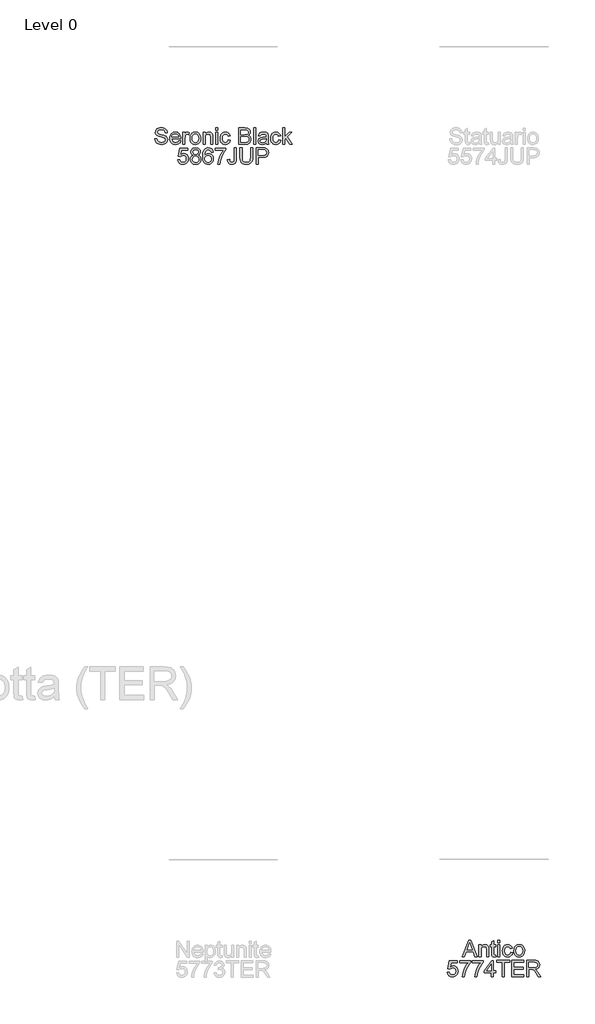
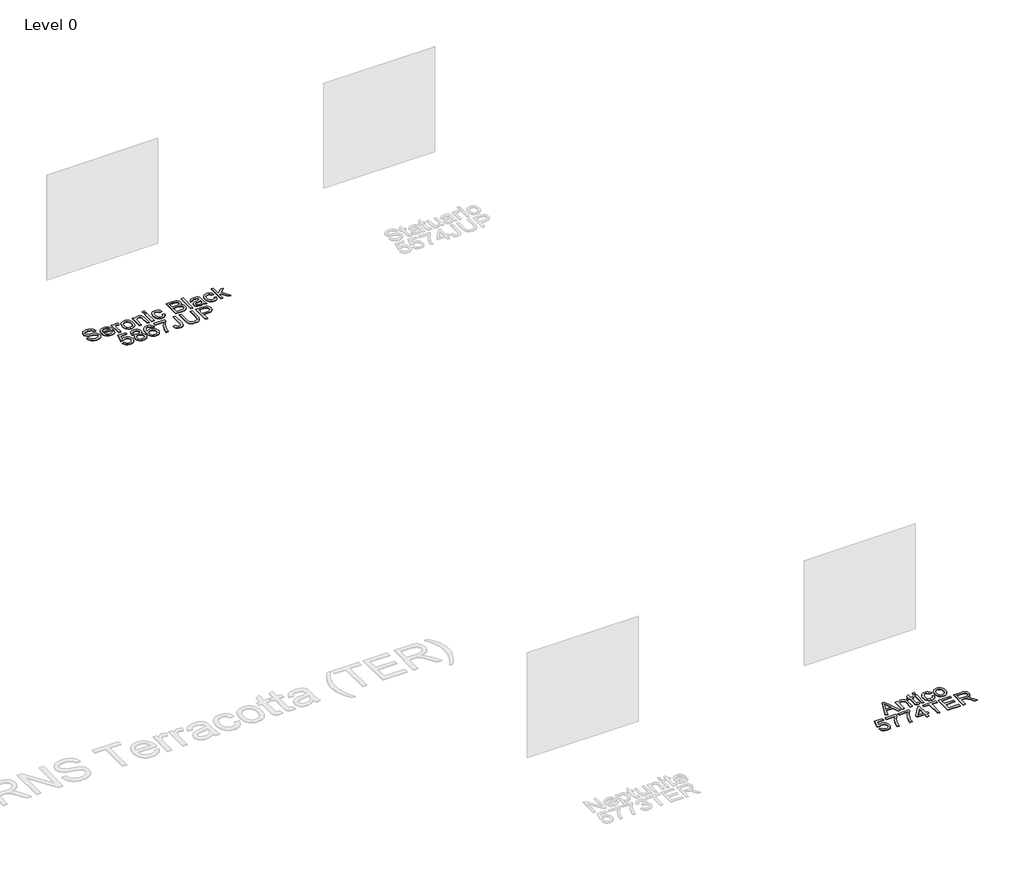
# One storey, part 25 of 29: 2 proxies.
"""IFC4 building model written with IfcOpenShell, lengths in millimetres."""

from ifc_helpers import new_model, si_unit, origin, origin_with_axes, place, context, project, spatial, polyline, outline, extrude, element, save

model = new_model("IFC4")

# Units and contexts
model_context = context("Model", 3, world=origin())
ifc_project = project(units=[si_unit("LENGTHUNIT", "METRE", prefix="MILLI")], contexts=[model_context])

# Site, building, storey
site = spatial("IfcSite", under=ifc_project)
building = spatial("IfcBuilding", under=site)
storey = spatial("IfcBuildingStorey", under=building, Name="Level 0", Elevation=0.0)

# Proxies
placement = place(None, origin())
element("IfcBuildingElementProxy", 1, Name="300mm Arial", ObjectType="300mm Arial", at=placement, inside=storey, context=model_context, shape_type="SweptSolid", body=[
    extrude(outline(polyline([(27287.3595474, -6898.2649241), (27325.0306637, -6898.2649241), (27329.3532772, -6919.1698185), (27337.1707696, -6935.9728286), (27349.3660577, -6949.308551), (27366.8220584, -6959.8115819), (27388.1592141, -6966.6265959), (27411.9979674, -6968.8982672), (27432.9856352, -6967.1784189), (27451.3613409, -6962.0188739), (27466.2513646, -6953.8518936), (27476.7819868, -6943.1097394), (27483.0451777, -6930.7764955), (27485.132908, -6917.8362463), (27483.5694096, -6905.2270909), (27478.8789141, -6894.3285868), (27469.3507705, -6885.0303694), (27453.2743273, -6877.222074), (27398.4231218, -6862.837888), (27362.4166715, -6853.3189414), (27339.3780616, -6844.2598472), (27320.6252769, -6831.5863125), (27307.3355398, -6816.2272392), (27299.4168798, -6798.5137211), (27296.7773265, -6778.7768521), (27300.0422792, -6756.7131294), (27309.8371373, -6736.1393289), (27325.9043835, -6718.7017223), (27347.9865002, -6706.0465817), (27374.492398, -6698.3486509), (27403.8309871, -6695.782674), (27435.6159915, -6698.4682126), (27463.4278703, -6706.5248283), (27486.2733422, -6719.7869742), (27503.1591258, -6738.0891034), (27513.8460978, -6760.2907818), (27518.0951348, -6785.2515752), (27480.4240185, -6785.2515752), (27473.507837, -6762.7739853), (27459.0868628, -6746.5503893), (27436.5540906, -6736.7279401), (27405.3025151, -6733.4537903), (27373.3151756, -6736.6911519), (27351.3710146, -6746.4032365), (27338.6790858, -6760.695452), (27334.4484428, -6777.6732061), (27337.4466811, -6792.1493626), (27346.4413959, -6803.7928278), (27367.7049752, -6814.2038882), (27407.9512655, -6824.8356779), (27449.4851427, -6834.9340387), (27474.611483, -6843.7448125), (27496.0865945, -6857.4116286), (27511.0685887, -6874.2790181), (27519.8701654, -6894.1630399), (27522.8040244, -6916.8797531), (27519.428707, -6940.102304), (27509.3027551, -6961.9452975), (27492.8400358, -6980.7440675), (27470.4544164, -6994.8339479), (27443.5346514, -7003.6355246), (27413.4694954, -7006.5693835), (27376.5617342, -7003.4055984), (27346.1838785, -6993.9142429), (27321.9864402, -6978.0585289), (27303.6199316, -6955.8016682), (27291.8293137, -6928.6887651), (27287.3595474, -6898.2649241)])), origin_with_axes(), (0.0, 0.0, 1.0), 10.0),
    extrude(outline(polyline([(27729.5537056, -6935.9360404), (27766.489058, -6940.64493), (27753.1809268, -6968.4752029), (27731.9449386, -6989.2789297), (27703.25934, -7002.2467701), (27667.6023777, -7006.5693835), (27644.2280754, -7004.7046817), (27623.4013559, -6999.1105761), (27605.1222193, -6989.7870668), (27589.3906655, -6976.7341537), (27576.7401234, -6960.3151204), (27567.7040219, -6940.8932503), (27562.282361, -6918.4685435), (27560.4751407, -6893.0409998), (27562.3007551, -6866.7512327), (27567.7775983, -6843.5792656), (27576.9056703, -6823.5250983), (27589.6849711, -6806.5887309), (27605.3751382, -6793.133447), (27623.235809, -6783.5225298), (27643.2669837, -6777.7559796), (27665.4686621, -6775.8337961), (27686.9552699, -6777.751381), (27706.386337, -6783.5041357), (27723.7618635, -6793.0920602), (27739.0818493, -6806.5151545), (27751.5875379, -6823.4147337), (27760.5201726, -6843.4321128), (27765.8797534, -6866.5672917), (27767.6662803, -6892.8202706), (27767.4455511, -6902.9738137), (27598.146257, -6902.9738137), (27604.6669653, -6931.1719686), (27619.8145065, -6951.902119), (27641.675894, -6964.6492302), (27668.3381416, -6968.8982672), (27688.3877104, -6966.9300985), (27705.273494, -6961.0255925), (27718.9954924, -6950.8168672), (27729.5537056, -6935.9360404)]), holes=[polyline([(27598.146257, -6865.3026974), (27729.995164, -6865.3026974), (27724.8999984, -6845.4002814), (27714.9120022, -6831.1632482), (27692.9494471, -6817.9194964), (27665.3215093, -6813.5049125), (27639.9284546, -6817.0273826), (27618.9315897, -6827.5947929), (27604.3358715, -6844.0667092), (27598.146257, -6865.3026974)])]), origin_with_axes(), (0.0, 0.0, 1.0), 10.0),
    extrude(outline(polyline([(27805.3373966, -7001.860494), (27805.3373966, -6780.5426857), (27838.2996234, -6780.5426857), (27838.2996234, -6813.2841833), (27850.4765175, -6794.3014723), (27861.6969183, -6783.1178596), (27872.9541074, -6777.654812), (27885.241366, -6775.8337961), (27904.0033478, -6778.7400639), (27923.0596351, -6787.4588672), (27910.4780709, -6821.2304343), (27897.234319, -6815.4362929), (27883.9905672, -6813.5049125), (27872.7425752, -6815.3627165), (27862.6901997, -6820.9361288), (27854.5692047, -6829.8020848), (27849.1153541, -6841.5375205), (27844.5352232, -6862.5803706), (27843.008513, -6885.5362071), (27843.008513, -7001.860494), (27805.3373966, -7001.860494)])), origin_with_axes(), (0.0, 0.0, 1.0), 10.0),
    extrude(outline(polyline([(27937.1863037, -6891.2015898), (27939.2234503, -6862.5389839), (27945.3348899, -6837.8403064), (27955.5206227, -6817.1055575), (27969.7806485, -6800.334737), (27984.1372434, -6789.6155754), (27999.9837603, -6781.9590314), (28017.3201993, -6777.3651049), (28036.1465604, -6775.8337961), (28056.9295939, -6777.698498), (28075.7214661, -6783.2926036), (28092.5221769, -6792.6161129), (28107.3317265, -6805.669026), (28119.4189493, -6822.0098843), (28128.0526799, -6841.1972296), (28133.2329182, -6863.2310619), (28134.9596643, -6888.1113811), (28131.9062438, -6926.1687735), (28122.7459821, -6955.1394806), (28107.7455937, -6976.8353213), (28087.1717932, -6993.0681143), (28062.7352316, -7003.1940662), (28036.1465604, -7006.5693835), (28015.0600243, -7004.7115794), (27996.0934082, -6999.1381672), (27979.2467121, -6989.8491468), (27964.519936, -6976.8445183), (27952.5614719, -6960.3450108), (27944.0197118, -6940.5713536), (27938.8946557, -6917.5235466), (27937.1863037, -6891.2015898)]), holes=[polyline([(27974.85742, -6891.1280134), (27979.2168217, -6925.2214773), (27992.2950266, -6949.5108861), (28011.9767133, -6964.0514219), (28036.1465604, -6968.8982672), (28060.2060429, -6964.0238308), (28079.8509414, -6949.4005215), (28092.9291464, -6924.789216), (28097.288548, -6889.950791), (28092.9015552, -6856.8506085), (28079.7405768, -6832.8922936), (28060.0680872, -6818.3517577), (28036.1465604, -6813.5049125), (28011.9767133, -6818.3333636), (27992.2950266, -6832.8187172), (27979.2168217, -6857.0529436), (27974.85742, -6891.1280134)])]), origin_with_axes(), (0.0, 0.0, 1.0), 10.0),
    extrude(outline(polyline([(28177.3396702, -7001.860494), (28177.3396702, -6780.5426857), (28215.0107865, -6780.5426857), (28215.0107865, -6811.4447733), (28228.0981885, -6795.8649708), (28243.8159467, -6784.7365404), (28262.1640612, -6778.0594822), (28283.142532, -6775.8337961), (28301.7113757, -6777.6272209), (28318.7167209, -6783.0074951), (28332.8985718, -6791.303234), (28342.9969326, -6801.8430532), (28354.2909098, -6829.5445674), (28356.2774726, -6865.964885), (28356.2774726, -7001.860494), (28318.6063563, -7001.860494), (28318.6063563, -6871.0416565), (28314.2653488, -6837.7115477), (28308.2596752, -6827.7879309), (28298.9246696, -6820.0900002), (28286.9593077, -6815.1511844), (28273.0625653, -6813.5049125), (28250.9988427, -6817.2021265), (28232.1908757, -6828.2937687), (28224.6745866, -6837.3482643), (28219.3058088, -6849.7228949), (28215.0107865, -6884.4325611), (28215.0107865, -7001.860494), (28177.3396702, -7001.860494)])), origin_with_axes(), (0.0, 0.0, 1.0), 10.0),
    extrude(outline(polyline([(28408.0752575, -6738.1626798), (28408.0752575, -6700.4915635), (28445.7463739, -6700.4915635), (28445.7463739, -6738.1626798), (28408.0752575, -6738.1626798)])), origin_with_axes(), (0.0, 0.0, 1.0), 10.0),
    extrude(outline(polyline([(28408.0752575, -7001.860494), (28408.0752575, -6780.5426857), (28445.7463739, -6780.5426857), (28445.7463739, -7001.860494), (28408.0752575, -7001.860494)])), origin_with_axes(), (0.0, 0.0, 1.0), 10.0),
    extrude(outline(polyline([(28643.5197345, -6921.8093718), (28681.1908508, -6926.5182614), (28670.6878198, -6960.0231141), (28650.9509508, -6985.3425924), (28623.8380477, -7001.2626857), (28591.2069147, -7006.5693835), (28570.0789919, -7004.7184772), (28551.1353684, -6999.1657584), (28534.3760443, -6989.9112269), (28519.8010195, -6976.9548829), (28508.0035037, -6960.5404481), (28499.5767068, -6940.9116444), (28494.5206286, -6918.0684718), (28492.8352692, -6892.0109302), (28495.7139458, -6858.4876834), (28504.3499757, -6829.4342028), (28518.8813145, -6805.9725286), (28539.445918, -6789.2247008), (28564.0480264, -6779.1815223), (28590.69188, -6775.8337961), (28622.5228696, -6780.4323211), (28647.9711066, -6794.2278959), (28666.2272506, -6816.4847566), (28676.4819612, -6846.4671392), (28638.8108449, -6851.1760288), (28631.9774369, -6834.7409006), (28621.3364501, -6822.9594797), (28607.476496, -6815.8685543), (28590.9861855, -6813.5049125), (28566.6415945, -6818.1586197), (28547.3185927, -6832.1197414), (28534.7094373, -6856.1424357), (28530.5063855, -6890.9808606), (28534.6174668, -6926.2883351), (28546.9507107, -6950.3938029), (28565.9242246, -6964.2721511), (28589.956116, -6968.8982672), (28609.4630588, -6966.0103936), (28625.4567285, -6957.3467726), (28637.0909966, -6942.6866751), (28643.5197345, -6921.8093718)])), origin_with_axes(), (0.0, 0.0, 1.0), 10.0),
    extrude(outline(polyline([(28836.5842055, -7001.860494), (28836.5842055, -6700.4915635), (28951.5841172, -6700.4915635), (28983.2127718, -6702.7080526), (29007.9068507, -6709.3575196), (29026.8343793, -6720.6055116), (29041.163383, -6736.6175755), (29050.185689, -6755.4531336), (29053.1931243, -6775.1716086), (29050.6639356, -6793.317388), (29043.0763694, -6810.3779155), (29030.3752435, -6825.3047274), (29012.5053756, -6837.0493601), (29033.8517284, -6848.1961846), (29049.6246689, -6865.1555446), (29059.3643448, -6886.8054), (29062.6109034, -6912.0237108), (29060.3944143, -6933.0389697), (29053.7449473, -6952.5275184), (29043.8213305, -6969.1006023), (29031.7823922, -6981.3694669), (29017.0395212, -6990.253817), (28999.0041064, -6996.6733578), (28950.7012004, -7001.860494), (28836.5842055, -7001.860494)]), holes=[polyline([(28874.2553218, -6822.9226915), (28943.0492549, -6822.9226915), (28983.2219688, -6819.68533), (28997.2842581, -6814.1027207), (29007.3918159, -6805.7426024), (29013.48946, -6794.7337336), (29015.522008, -6781.2048733), (29013.6274157, -6768.071486), (29007.9436389, -6756.630356), (28998.7281949, -6747.7000206), (28986.2386012, -6742.0990172), (28937.8253306, -6738.1626798), (28874.2553218, -6738.1626798), (28874.2553218, -6822.9226915)]), polyline([(28874.2553218, -6964.1893777), (28951.5105408, -6964.1893777), (28979.4695725, -6962.7178497), (29003.1243847, -6954.5140812), (29018.7961577, -6937.7754504), (29023.4038797, -6925.9480443), (29024.9397871, -6912.3915928), (29023.1371653, -6896.6462434), (29017.7293, -6883.1081859), (29008.2839297, -6872.5223815), (28994.3687933, -6865.6337912), (28974.6595154, -6861.8538037), (28947.8317209, -6860.5938078), (28874.2553218, -6860.5938078), (28874.2553218, -6964.1893777)])]), origin_with_axes(), (0.0, 0.0, 1.0), 10.0),
    extrude(outline(polyline([(29109.6997987, -7001.860494), (29109.6997987, -6700.4915635), (29147.3709151, -6700.4915635), (29147.3709151, -7001.860494), (29109.6997987, -7001.860494)])), origin_with_axes(), (0.0, 0.0, 1.0), 10.0),
    extrude(outline(polyline([(29345.1442757, -6973.6071568), (29327.145649, -6989.0398064), (29308.6135935, -6999.1381672), (29289.1250448, -7004.7115794), (29268.2569387, -7006.5693835), (29236.7754369, -7002.0996173), (29213.552886, -6988.6903186), (29199.2330793, -6968.3280501), (29194.4598104, -6942.9993748), (29196.2624322, -6927.3827841), (29201.6702975, -6913.2009331), (29210.0120218, -6901.0608273), (29220.6162203, -6891.5694718), (29246.9933593, -6879.2086368), (29279.5877041, -6873.5432541), (29318.104949, -6867.5835657), (29344.9235465, -6860.5938078), (29345.1442757, -6852.2060983), (29342.5507076, -6835.3938912), (29334.7700034, -6824.3942195), (29317.369185, -6816.2272392), (29293.1257615, -6813.5049125), (29270.6849598, -6815.3167313), (29255.0131868, -6820.7521878), (29244.3262149, -6830.8045633), (29236.8398163, -6846.4671392), (29199.1687, -6841.7582497), (29205.7078024, -6821.156858), (29215.4658724, -6804.9700502), (29229.3534177, -6792.590821), (29248.2809463, -6783.4121652), (29271.4299209, -6777.7283884), (29297.9818039, -6775.8337961), (29323.448435, -6777.5076592), (29343.6359595, -6782.5292485), (29358.857077, -6790.0800264), (29369.4244873, -6799.3414556), (29376.4326393, -6810.7917827), (29380.975982, -6824.9092543), (29382.815392, -6857.8714811), (29382.815392, -6904.7396473), (29384.7283783, -6970.1858542), (29392.233171, -7001.860494), (29354.5620547, -7001.860494), (29345.1442757, -6973.6071568)]), holes=[polyline([(29345.1442757, -6898.2649241), (29284.3701701, -6909.8164188), (29251.9597663, -6915.9232599), (29237.2812747, -6925.8560738), (29232.1309267, -6940.3506244), (29234.936027, -6951.5526311), (29243.3513276, -6960.7312869), (29257.1928877, -6966.8565221), (29276.2767662, -6968.8982672), (29296.5102759, -6966.64499), (29314.3893409, -6959.8851583), (29328.8838915, -6949.9247533), (29338.9638581, -6938.069756), (29343.4336244, -6925.8560738), (29344.9235465, -6908.933502), (29345.1442757, -6898.2649241)])]), origin_with_axes(), (0.0, 0.0, 1.0), 10.0),
    extrude(outline(polyline([(29575.879863, -6921.8093718), (29613.5509793, -6926.5182614), (29603.0479484, -6960.0231141), (29583.3110793, -6985.3425924), (29556.1981763, -7001.2626857), (29523.5670433, -7006.5693835), (29502.4391205, -7004.7184772), (29483.495497, -6999.1657584), (29466.7361729, -6989.9112269), (29452.1611481, -6976.9548829), (29440.3636323, -6960.5404481), (29431.9368354, -6940.9116444), (29426.8807572, -6918.0684718), (29425.1953978, -6892.0109302), (29428.0740744, -6858.4876834), (29436.7101043, -6829.4342028), (29451.2414431, -6805.9725286), (29471.8060466, -6789.2247008), (29496.408155, -6779.1815223), (29523.0520085, -6775.8337961), (29554.8829982, -6780.4323211), (29580.3312352, -6794.2278959), (29598.5873792, -6816.4847566), (29608.8420898, -6846.4671392), (29571.1709735, -6851.1760288), (29564.3375654, -6834.7409006), (29553.6965787, -6822.9594797), (29539.8366246, -6815.8685543), (29523.3463141, -6813.5049125), (29499.0017231, -6818.1586197), (29479.6787213, -6832.1197414), (29467.0695659, -6856.1424357), (29462.8665141, -6890.9808606), (29466.9775954, -6926.2883351), (29479.3108393, -6950.3938029), (29498.2843532, -6964.2721511), (29522.3162445, -6968.8982672), (29541.8231873, -6966.0103936), (29557.8168571, -6957.3467726), (29569.4511252, -6942.6866751), (29575.879863, -6921.8093718)])), origin_with_axes(), (0.0, 0.0, 1.0), 10.0),
    extrude(outline(polyline([(29646.5132061, -7001.860494), (29646.5132061, -6700.4915635), (29684.1843224, -6700.4915635), (29684.1843224, -6862.4332178), (29768.6500285, -6780.5426857), (29820.742119, -6780.5426857), (29735.2463433, -6863.4632874), (29825.4510086, -7001.860494), (29781.4523219, -7001.860494), (29708.2438049, -6889.6564855), (29684.1843224, -6912.9802039), (29684.1843224, -7001.860494), (29646.5132061, -7001.860494)])), origin_with_axes(), (0.0, 0.0, 1.0), 10.0),
    extrude(outline(polyline([(27711.1596059, -7287.7338254), (27748.8307222, -7283.0249358), (27755.7469037, -7305.6404815), (27767.8134331, -7321.8364863), (27784.9751282, -7331.5761621), (27807.1768066, -7334.8227207), (27834.1793451, -7330.3069693), (27854.4128548, -7316.7597148), (27867.0496013, -7295.7444558), (27871.2618502, -7268.8246908), (27867.3163158, -7243.4776213), (27855.4797126, -7224.0902402), (27835.6600701, -7211.7845875), (27807.7654178, -7207.6827032), (27789.4908797, -7209.3197781), (27774.6928264, -7214.2310027), (27753.5396117, -7231.2271509), (27715.8684954, -7226.5182614), (27748.8307222, -7071.1249066), (27894.8062979, -7071.1249066), (27894.8062979, -7108.7960229), (27779.2913514, -7108.7960229), (27763.17812, -7191.790201), (27790.0886879, -7175.4562404), (27818.2868429, -7170.0115869), (27836.6326581, -7171.6992456), (27853.4839528, -7176.7622215), (27868.8407268, -7185.2005148), (27882.7029802, -7197.0141254), (27894.1785992, -7211.4810848), (27902.3754699, -7227.8794248), (27907.2935923, -7246.2091452), (27908.9329665, -7266.470246), (27903.0284605, -7304.1413624), (27895.6478279, -7320.9351754), (27885.3149424, -7336.3678251), (27869.6615635, -7352.1729553), (27851.3962224, -7363.4623341), (27830.5189192, -7370.2359613), (27807.0296538, -7372.4938371), (27770.0299222, -7366.6904986), (27754.3512514, -7359.4363255), (27740.5533773, -7349.2804832), (27729.0731598, -7336.7288093), (27720.3474587, -7322.2871418), (27711.1596059, -7287.7338254)])), origin_with_axes(), (0.0, 0.0, 1.0), 10.0),
    extrude(outline(polyline([(27996.7831869, -7201.7965913), (27976.6140566, -7191.8637774), (27962.4597968, -7178.3992964), (27954.0996784, -7161.6790597), (27951.3129723, -7141.9789789), (27952.8304856, -7126.6153071), (27957.3830253, -7112.5300252), (27964.9705914, -7099.7231332), (27975.593184, -7088.1946312), (27988.7403668, -7078.6664875), (28003.9017035, -7071.8606706), (28040.2668388, -7066.4160171), (28076.8527032, -7071.9894293), (28092.1795868, -7078.9561946), (28105.5291047, -7088.709666), (28116.3448354, -7100.4634957), (28124.0703573, -7113.4313361), (28128.7056704, -7127.613187), (28130.2507748, -7143.0090485), (28127.5008569, -7162.0745329), (28119.2511031, -7178.509661), (28105.4095431, -7191.8913686), (28085.8842062, -7201.7965913), (28109.0699689, -7213.7435591), (28125.9465554, -7231.3375155), (28136.2380543, -7253.732332), (28139.6685539, -7280.0818799), (28137.9670996, -7298.8714528), (28132.862737, -7316.0975272), (28124.3554658, -7331.7601031), (28112.4452862, -7345.8591806), (28097.7575976, -7357.5118428), (28080.9177992, -7365.8351729), (28061.9258912, -7370.829171), (28040.7818736, -7372.4938371), (28019.6378559, -7370.8222732), (28000.6459479, -7365.8075818), (27983.8061496, -7357.4497627), (27969.1184609, -7345.748816), (27957.2082813, -7331.5508703), (27948.7010102, -7315.7020541), (27943.5966475, -7298.2023674), (27941.8951933, -7279.0518103), (27945.4636486, -7251.6813898), (27956.1690147, -7229.1670117), (27973.4594684, -7212.2812282), (27996.7831869, -7201.7965913)]), holes=[polyline([(27979.5663096, -7277.7274351), (27985.8570917, -7306.0911369), (27994.5666979, -7318.2588339), (28008.1139524, -7327.317928), (28024.3375484, -7332.9465226), (28041.0761792, -7334.8227207), (28066.7175542, -7330.8771864), (28085.9577826, -7319.0405832), (28097.9875238, -7301.1155329), (28101.9974376, -7278.9046575), (28097.8587651, -7256.316703), (28085.4427478, -7237.9961796), (28065.761061, -7225.8560738), (28039.8253804, -7221.8093718), (28014.5426903, -7225.8008915), (27995.4956, -7237.7754504), (27983.5486322, -7255.7464859), (27979.5663096, -7277.7274351)]), polyline([(27988.9840886, -7143.0826249), (27992.3226177, -7159.52695), (28002.3382051, -7172.6603373), (28018.736545, -7181.268776), (28041.223332, -7184.1382555), (28063.1858871, -7181.2871701), (28079.3359067, -7172.7339137), (28089.2687205, -7160.0419848), (28092.5796585, -7144.774882), (28089.1583559, -7128.9283651), (28078.8944483, -7115.822569), (28062.5236995, -7107.0209923), (28040.7818736, -7104.0871334), (28018.9020919, -7106.9566129), (28002.5589343, -7115.5650516), (27992.3778, -7128.1834041), (27988.9840886, -7143.0826249)])]), origin_with_axes(), (0.0, 0.0, 1.0), 10.0),
    extrude(outline(polyline([(28365.6952517, -7146.4671392), (28328.0241354, -7151.1760288), (28321.9540825, -7132.5060175), (28313.750314, -7119.7589064), (28296.6621953, -7108.0050766), (28276.0056213, -7104.0871334), (28258.4944383, -7106.3680017), (28242.0133249, -7113.2106069), (28227.8590652, -7127.622384), (28216.2983735, -7147.4604206), (28208.4900781, -7175.5206198), (28205.5930074, -7214.5988847), (28220.7037604, -7196.9681401), (28238.8127516, -7184.5429257), (28258.9083056, -7177.1760888), (28279.9787468, -7174.7204764), (28298.078541, -7176.3989381), (28314.7803836, -7181.4343229), (28330.0842746, -7189.8266309), (28343.990214, -7201.5758621), (28355.5463072, -7215.9830407), (28363.8006594, -7232.349191), (28368.7532708, -7250.6743129), (28370.4041412, -7270.9584064), (28367.2955384, -7297.9333537), (28357.9697298, -7322.9401323), (28343.1992677, -7344.1485293), (28323.7567043, -7359.7283318), (28300.5249563, -7369.3024607), (28274.3869405, -7372.4938371), (28251.930044, -7370.3785156), (28231.6482497, -7364.0325512), (28213.5415578, -7353.4559438), (28197.6099681, -7338.6486935), (28184.6214344, -7318.9854009), (28175.3439103, -7293.8406665), (28169.7773959, -7263.2144904), (28167.9218911, -7227.1068726), (28169.9820303, -7186.6260575), (28176.1624478, -7152.0773396), (28186.4631437, -7123.4607189), (28200.8841179, -7100.7761954), (28216.5145041, -7085.7436174), (28234.6372909, -7075.0060617), (28255.2524782, -7068.5635282), (28278.360066, -7066.4160171), (28311.4142633, -7071.7319119), (28337.8833729, -7087.6795964), (28356.4246254, -7113.0082718), (28365.6952517, -7146.4671392)]), holes=[polyline([(28205.5930074, -7270.3697952), (28207.7727082, -7287.0624407), (28214.3118107, -7303.0009282), (28224.4653538, -7316.7045325), (28237.4883764, -7326.6925287), (28253.2061346, -7332.7901727), (28271.4438845, -7334.8227207), (28296.3035104, -7330.6104719), (28315.8472414, -7317.9737254), (28328.511579, -7298.1080976), (28332.7330249, -7272.2092052), (28328.5667613, -7247.3495793), (28316.0679706, -7228.3944595), (28296.1931458, -7216.3923095), (28269.8987802, -7212.3915928), (28245.0759425, -7216.3923095), (28224.318201, -7228.3944595), (28210.2743058, -7246.8897269), (28205.5930074, -7270.3697952)])]), origin_with_axes(), (0.0, 0.0, 1.0), 10.0),
    extrude(outline(polyline([(28403.366368, -7108.7960229), (28403.366368, -7071.1249066), (28601.1397286, -7071.1249066), (28601.1397286, -7101.5855358), (28572.9507707, -7137.2608923), (28545.0377243, -7182.6299393), (28520.4172218, -7233.5540045), (28502.1058955, -7285.8944154), (28493.1295748, -7325.0554538), (28488.1263797, -7367.7849475), (28450.4552634, -7367.7849475), (28454.5295565, -7328.9550029), (28465.4280606, -7282.8042066), (28482.8564701, -7233.8850983), (28506.5204795, -7186.7502177), (28534.1484173, -7144.1402856), (28563.4686123, -7108.7960229), (28403.366368, -7108.7960229)])), origin_with_axes(), (0.0, 0.0, 1.0), 10.0),
    extrude(outline(polyline([(28629.3930658, -7283.1720886), (28667.0641821, -7278.3160463), (28670.9821254, -7305.7048608), (28679.940052, -7322.8297677), (28693.6252622, -7331.8244825), (28711.7250564, -7334.8227207), (28725.6401928, -7333.1212665), (28737.5135842, -7328.0169038), (28746.6738459, -7319.9786822), (28752.4495932, -7309.4756513), (28756.5330834, -7272.1356288), (28756.5330834, -7066.4160171), (28794.2041997, -7066.4160171), (28794.2041997, -7271.4734412), (28791.9325284, -7305.0150821), (28785.1175144, -7330.0034666), (28773.3636847, -7348.2596106), (28756.275566, -7361.60453), (28734.8188486, -7369.7715103), (28709.9592228, -7372.4938371), (28675.1391919, -7366.8744396), (28661.1918658, -7359.8501927), (28649.5529992, -7350.0162472), (28640.4295257, -7337.409391), (28634.028379, -7322.0664126), (28629.3930658, -7283.1720886)])), origin_with_axes(), (0.0, 0.0, 1.0), 10.0),
    extrude(outline(polyline([(29057.9020138, -7066.4160171), (29095.5731301, -7066.4160171), (29095.5731301, -7240.277048), (29093.0163503, -7280.9923878), (29085.3460107, -7312.3451308), (29071.017007, -7336.533372), (29048.4842347, -7355.7552063), (29017.6925118, -7368.3091794), (28978.5866557, -7372.4938371), (28940.3361252, -7368.8518053), (28909.7559344, -7357.92571), (28886.8368861, -7340.0926303), (28871.5697833, -7315.7296452), (28862.9889357, -7283.052527), (28860.1286532, -7240.277048), (28860.1286532, -7066.4160171), (28897.7997695, -7066.4160171), (28897.7997695, -7238.9526728), (28899.6575736, -7272.8070134), (28905.2309858, -7296.3790523), (28915.3293466, -7312.7038158), (28930.7619963, -7324.8163305), (28950.8851414, -7332.3211232), (28975.0549885, -7334.8227207), (29013.3698983, -7329.8747079), (29027.7126976, -7323.6896919), (29038.8457265, -7315.0306694), (29047.1828522, -7302.8537754), (29053.137942, -7286.1151446), (29057.9020138, -7238.9526728), (29057.9020138, -7066.4160171)])), origin_with_axes(), (0.0, 0.0, 1.0), 10.0),
    extrude(outline(polyline([(29161.4975837, -7367.7849475), (29161.4975837, -7066.4160171), (29273.1865574, -7066.4160171), (29318.2153136, -7069.2854966), (29338.2924735, -7074.6473767), (29354.8195721, -7083.375377), (29368.1277033, -7095.8649708), (29378.5479608, -7112.5116311), (29385.2802013, -7132.1473326), (29387.5242815, -7153.6040499), (29386.0090675, -7172.1039158), (29381.4634256, -7189.1230566), (29373.8873558, -7204.6614723), (29363.280858, -7218.7191631), (29348.7196288, -7230.3718253), (29329.2793646, -7238.6951554), (29304.9600655, -7243.6891535), (29275.7617314, -7245.3538195), (29199.1687, -7245.3538195), (29199.1687, -7367.7849475), (29161.4975837, -7367.7849475)]), holes=[polyline([(29199.1687, -7207.6827032), (29277.9690233, -7207.6827032), (29311.3727085, -7204.2246125), (29333.4456282, -7193.8503402), (29345.751281, -7177.2036799), (29349.8531652, -7154.9284251), (29347.4343411, -7138.0058533), (29340.1778687, -7123.7320319), (29328.985059, -7112.9898777), (29314.7572229, -7106.6623073), (29277.0861066, -7104.0871334), (29199.1687, -7104.0871334), (29199.1687, -7207.6827032)])]), origin_with_axes(), (0.0, 0.0, 1.0), 10.0),
])
element("IfcBuildingElementProxy", 2, Name="300mm Arial", ObjectType="300mm Arial", at=placement, inside=storey, context=model_context, shape_type="SweptSolid", body=[
    extrude(outline(polyline([(32965.6603701, -22007.860494), (33085.9577826, -21706.4915635), (33118.0370925, -21706.4915635), (33238.334505, -22007.860494), (33198.5296731, -22007.860494), (33164.0223419, -21913.6827032), (33039.8989568, -21913.6827032), (33005.465202, -22007.860494), (32965.6603701, -22007.860494)]), holes=[polyline([(33053.7313198, -21876.0115869), (33150.2635553, -21876.0115869), (33123.1138641, -21801.9201531), (33101.9974376, -21744.1626798), (33083.2354558, -21795.44543), (33053.7313198, -21876.0115869)])]), origin_with_axes(), (0.0, 0.0, 1.0), 10.0),
    extrude(outline(polyline([(33273.8719057, -22007.860494), (33273.8719057, -21786.5426857), (33311.543022, -21786.5426857), (33311.543022, -21817.4447733), (33324.630424, -21801.8649708), (33340.3481822, -21790.7365404), (33358.6962967, -21784.0594822), (33379.6747675, -21781.8337961), (33398.2436112, -21783.6272209), (33415.2489565, -21789.0074951), (33429.4308074, -21797.303234), (33439.5291681, -21807.8430532), (33450.8231454, -21835.5445674), (33452.8097082, -21871.964885), (33452.8097082, -22007.860494), (33415.1385919, -22007.860494), (33415.1385919, -21877.0416565), (33410.7975843, -21843.7115477), (33404.7919107, -21833.7879309), (33395.4569051, -21826.0900002), (33383.4915432, -21821.1511844), (33369.5948008, -21819.5049125), (33347.5310782, -21823.2021265), (33328.7231112, -21834.2937687), (33321.2068222, -21843.3482643), (33315.8380443, -21855.7228949), (33311.543022, -21890.4325611), (33311.543022, -22007.860494), (33273.8719057, -22007.860494)])), origin_with_axes(), (0.0, 0.0, 1.0), 10.0),
    extrude(outline(polyline([(33584.6586152, -21976.4433716), (33589.3675048, -22008.96414), (33561.1877439, -22012.5693835), (33543.1063439, -22011.005885), (33529.6234688, -22006.3153896), (33520.0953251, -21999.0865084), (33513.8781194, -21989.9078526), (33510.4568168, -21974.1441091), (33509.3163826, -21947.1599648), (33509.3163826, -21824.213802), (33481.0630454, -21824.213802), (33481.0630454, -21786.5426857), (33509.3163826, -21786.5426857), (33509.3163826, -21732.758338), (33546.9874989, -21710.6118419), (33546.9874989, -21786.5426857), (33584.6586152, -21786.5426857), (33584.6586152, -21824.213802), (33546.9874989, -21824.213802), (33546.9874989, -21946.0563188), (33548.9740617, -21965.4804881), (33555.4119966, -21972.3598814), (33568.2510782, -21974.8982672), (33584.6586152, -21976.4433716)])), origin_with_axes(), (0.0, 0.0, 1.0), 10.0),
    extrude(outline(polyline([(33622.3297315, -21744.1626798), (33622.3297315, -21706.4915635), (33660.0008478, -21706.4915635), (33660.0008478, -21744.1626798), (33622.3297315, -21744.1626798)])), origin_with_axes(), (0.0, 0.0, 1.0), 10.0),
    extrude(outline(polyline([(33622.3297315, -22007.860494), (33622.3297315, -21786.5426857), (33660.0008478, -21786.5426857), (33660.0008478, -22007.860494), (33622.3297315, -22007.860494)])), origin_with_axes(), (0.0, 0.0, 1.0), 10.0),
    extrude(outline(polyline([(33857.7742084, -21927.8093718), (33895.4453248, -21932.5182614), (33884.9422938, -21966.0231141), (33865.2054248, -21991.3425924), (33838.0925217, -22007.2626857), (33805.4613887, -22012.5693835), (33784.3334659, -22010.7184772), (33765.3898424, -22005.1657584), (33748.6305183, -21995.9112269), (33734.0554935, -21982.9548829), (33722.2579777, -21966.5404481), (33713.8311808, -21946.9116444), (33708.7751026, -21924.0684718), (33707.0897432, -21898.0109302), (33709.9684198, -21864.4876834), (33718.6044497, -21835.4342028), (33733.1357885, -21811.9725286), (33753.700392, -21795.2247008), (33778.3025004, -21785.1815223), (33804.9463539, -21781.8337961), (33836.7773436, -21786.4323211), (33862.2255806, -21800.2278959), (33880.4817246, -21822.4847566), (33890.7364352, -21852.4671392), (33853.0653189, -21857.1760288), (33846.2319109, -21840.7409006), (33835.5909241, -21828.9594797), (33821.73097, -21821.8685543), (33805.2406595, -21819.5049125), (33780.8960685, -21824.1586197), (33761.5730667, -21838.1197414), (33748.9639113, -21862.1424357), (33744.7608595, -21896.9808606), (33748.8719408, -21932.2883351), (33761.2051847, -21956.3938029), (33780.1786986, -21970.2721511), (33804.21059, -21974.8982672), (33823.7175327, -21972.0103936), (33839.7112025, -21963.3467726), (33851.3454706, -21948.6866751), (33857.7742084, -21927.8093718)])), origin_with_axes(), (0.0, 0.0, 1.0), 10.0),
    extrude(outline(polyline([(33918.9897724, -21897.2015898), (33921.026919, -21868.5389839), (33927.1383586, -21843.8403064), (33937.3240914, -21823.1055575), (33951.5841172, -21806.334737), (33965.9407121, -21795.6155754), (33981.787229, -21787.9590314), (33999.123668, -21783.3651049), (34017.9500291, -21781.8337961), (34038.7330626, -21783.698498), (34057.5249348, -21789.2926036), (34074.3256456, -21798.6161129), (34089.1351952, -21811.669026), (34101.222418, -21828.0098843), (34109.8561486, -21847.1972296), (34115.0363869, -21869.2310619), (34116.7631331, -21894.1113811), (34113.7097125, -21932.1687735), (34104.5494508, -21961.1394806), (34089.5490625, -21982.8353213), (34068.9752619, -21999.0681143), (34044.5387004, -22009.1940662), (34017.9500291, -22012.5693835), (33996.863493, -22010.7115794), (33977.8968769, -22005.1381672), (33961.0501808, -21995.8491468), (33946.3234047, -21982.8445183), (33934.3649406, -21966.3450108), (33925.8231805, -21946.5713536), (33920.6981245, -21923.5235466), (33918.9897724, -21897.2015898)]), holes=[polyline([(33956.6608888, -21897.1280134), (33961.0202904, -21931.2214773), (33974.0984953, -21955.5108861), (33993.7801821, -21970.0514219), (34017.9500291, -21974.8982672), (34042.0095116, -21970.0238308), (34061.6544102, -21955.4005215), (34074.7326151, -21930.789216), (34079.0920167, -21895.950791), (34074.705024, -21862.8506085), (34061.5440456, -21838.8922936), (34041.8715559, -21824.3517577), (34017.9500291, -21819.5049125), (33993.7801821, -21824.3333636), (33974.0984953, -21838.8187172), (33961.0202904, -21863.0529436), (33956.6608888, -21897.1280134)])]), origin_with_axes(), (0.0, 0.0, 1.0), 10.0),
    extrude(outline(polyline([(32689.969603, -22293.7338254), (32727.6407193, -22289.0249358), (32734.5569008, -22311.6404815), (32746.6234302, -22327.8364863), (32763.7851253, -22337.5761621), (32785.9868037, -22340.8227207), (32812.9893421, -22336.3069693), (32833.2228519, -22322.7597148), (32845.8595984, -22301.7444558), (32850.0718473, -22274.8246908), (32846.1263129, -22249.4776213), (32834.2897097, -22230.0902402), (32814.4700672, -22217.7845875), (32786.5754149, -22213.6827032), (32768.3008768, -22215.3197781), (32753.5028235, -22220.2310027), (32732.3496088, -22237.2271509), (32694.6784925, -22232.5182614), (32727.6407193, -22077.1249066), (32873.616295, -22077.1249066), (32873.616295, -22114.7960229), (32758.1013485, -22114.7960229), (32741.9881171, -22197.790201), (32768.898685, -22181.4562404), (32797.09684, -22176.0115869), (32815.4426552, -22177.6992456), (32832.2939498, -22182.7622215), (32847.6507239, -22191.2005148), (32861.5129773, -22203.0141254), (32872.9885963, -22217.4810848), (32881.185467, -22233.8794248), (32886.1035894, -22252.2091452), (32887.7429636, -22272.470246), (32881.8384575, -22310.1413624), (32874.457825, -22326.9351754), (32864.1249395, -22342.3678251), (32848.4715606, -22358.1729553), (32830.2062195, -22369.4623341), (32809.3289163, -22376.2359613), (32785.8396509, -22378.4938371), (32748.8399192, -22372.6904986), (32733.1612485, -22365.4363255), (32719.3633744, -22355.2804832), (32707.8831569, -22342.7288093), (32699.1574558, -22328.2871418), (32689.969603, -22293.7338254)])), origin_with_axes(), (0.0, 0.0, 1.0), 10.0),
    extrude(outline(polyline([(32920.7051903, -22114.7960229), (32920.7051903, -22077.1249066), (33118.4785509, -22077.1249066), (33118.4785509, -22107.5855358), (33090.2895931, -22143.2608923), (33062.3765467, -22188.6299393), (33037.7560441, -22239.5540045), (33019.4447178, -22291.8944154), (33010.4683972, -22331.0554538), (33005.465202, -22373.7849475), (32967.7940857, -22373.7849475), (32971.8683788, -22334.9550029), (32982.7668829, -22288.8042066), (33000.1952924, -22239.8850983), (33023.8593018, -22192.7502177), (33051.4872396, -22150.1402856), (33080.8074346, -22114.7960229), (32920.7051903, -22114.7960229)])), origin_with_axes(), (0.0, 0.0, 1.0), 10.0),
    extrude(outline(polyline([(33151.4407777, -22114.7960229), (33151.4407777, -22077.1249066), (33349.2141383, -22077.1249066), (33349.2141383, -22107.5855358), (33321.0251804, -22143.2608923), (33293.1121341, -22188.6299393), (33268.4916315, -22239.5540045), (33250.1803052, -22291.8944154), (33241.2039845, -22331.0554538), (33236.2007894, -22373.7849475), (33198.5296731, -22373.7849475), (33202.6039662, -22334.9550029), (33213.5024703, -22288.8042066), (33230.9308798, -22239.8850983), (33254.5948892, -22192.7502177), (33282.222827, -22150.1402856), (33311.543022, -22114.7960229), (33151.4407777, -22114.7960229)])), origin_with_axes(), (0.0, 0.0, 1.0), 10.0),
    extrude(outline(polyline([(33504.6074931, -22373.7849475), (33504.6074931, -22303.1516044), (33368.0496965, -22303.1516044), (33368.0496965, -22265.4804881), (33514.0252722, -22077.1249066), (33542.2786094, -22077.1249066), (33542.2786094, -22265.4804881), (33579.9497257, -22265.4804881), (33579.9497257, -22303.1516044), (33542.2786094, -22303.1516044), (33542.2786094, -22373.7849475), (33504.6074931, -22373.7849475)]), holes=[polyline([(33504.6074931, -22265.4804881), (33504.6074931, -22149.0826249), (33414.4028279, -22265.4804881), (33504.6074931, -22265.4804881)])]), origin_with_axes(), (0.0, 0.0, 1.0), 10.0),
    extrude(outline(polyline([(33702.3808537, -22373.7849475), (33702.3808537, -22110.0871334), (33603.4941734, -22110.0871334), (33603.4941734, -22072.4160171), (33838.9386503, -22072.4160171), (33838.9386503, -22110.0871334), (33740.05197, -22110.0871334), (33740.05197, -22373.7849475), (33702.3808537, -22373.7849475)])), origin_with_axes(), (0.0, 0.0, 1.0), 10.0),
    extrude(outline(polyline([(33881.3186561, -22373.7849475), (33881.3186561, -22072.4160171), (34097.9275749, -22072.4160171), (34097.9275749, -22110.0871334), (33918.9897724, -22110.0871334), (33918.9897724, -22199.5560346), (34088.5097958, -22199.5560346), (34088.5097958, -22237.2271509), (33918.9897724, -22237.2271509), (33918.9897724, -22336.1138312), (34102.6364644, -22336.1138312), (34102.6364644, -22373.7849475), (33881.3186561, -22373.7849475)])), origin_with_axes(), (0.0, 0.0, 1.0), 10.0),
    extrude(outline(polyline([(34159.1431389, -22373.7849475), (34159.1431389, -22072.4160171), (34289.0054832, -22072.4160171), (34323.9082875, -22074.4485651), (34349.3013422, -22080.5462092), (34367.8609889, -22091.8033982), (34382.263569, -22109.3145812), (34391.5066041, -22131.0288159), (34394.5876158, -22154.8951604), (34389.4832531, -22184.5832374), (34374.1701651, -22209.1945429), (34362.5703859, -22219.2239258), (34348.1884992, -22227.2391547), (34311.0784029, -22237.2271509), (34332.489135, -22253.3403823), (34363.0233406, -22292.1151446), (34413.2760212, -22373.7849475), (34369.4980637, -22373.7849475), (34330.2818431, -22311.3185847), (34301.9549294, -22269.9686485), (34282.0525135, -22250.4341145), (34264.1366603, -22243.2604156), (34242.2844698, -22241.9360404), (34196.8142552, -22241.9360404), (34196.8142552, -22373.7849475), (34159.1431389, -22373.7849475)]), holes=[polyline([(34196.8142552, -22204.2649241), (34281.1328085, -22204.2649241), (34305.3486408, -22202.9313519), (34324.1382137, -22198.9306352), (34338.2832764, -22191.9960596), (34348.5655782, -22181.8609106), (34354.8287692, -22169.6012431), (34356.9164995, -22156.293112), (34352.9341769, -22137.9174063), (34340.9872091, -22123.110156), (34320.4318026, -22113.342889), (34290.624164, -22110.0871334), (34196.8142552, -22110.0871334), (34196.8142552, -22204.2649241)])]), origin_with_axes(), (0.0, 0.0, 1.0), 10.0),
])

save(model, "model.ifc")
